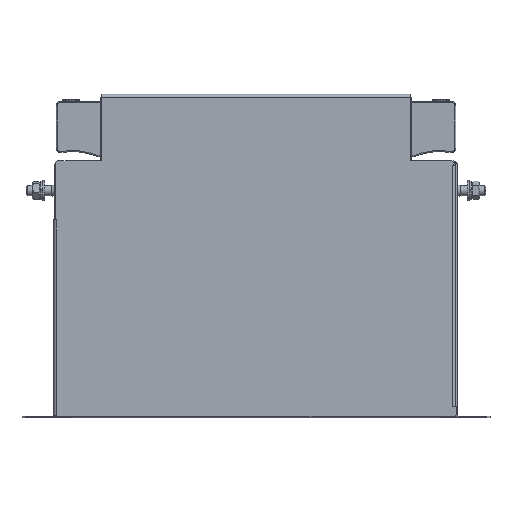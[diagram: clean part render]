
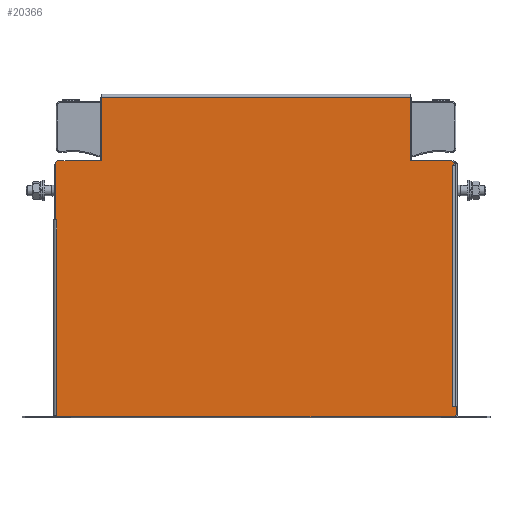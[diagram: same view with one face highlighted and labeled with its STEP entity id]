
A CAD part, top view. The second image highlights one B-rep face of the part: STEP entity #20366.
In plain terms, the highlighted planar face has unit normal (0, 0, 1).
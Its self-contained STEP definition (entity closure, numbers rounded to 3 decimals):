
#1993=LINE('',#33534,#3895);
#1999=LINE('',#33544,#3901);
#2001=LINE('',#33548,#3903);
#2004=LINE('',#33554,#3906);
#2006=LINE('',#33559,#3908);
#2016=LINE('',#33584,#3918);
#2017=LINE('',#33588,#3919);
#2023=LINE('',#33599,#3925);
#2024=LINE('',#33602,#3926);
#2027=LINE('',#33609,#3929);
#2031=LINE('',#33617,#3933);
#2035=LINE('',#33624,#3937);
#2050=LINE('',#33668,#3952);
#2053=LINE('',#33676,#3955);
#2054=LINE('',#33680,#3956);
#2060=LINE('',#33691,#3962);
#2061=LINE('',#33693,#3963);
#2063=LINE('',#33698,#3965);
#2067=LINE('',#33706,#3969);
#2071=LINE('',#33714,#3973);
#2078=LINE('',#33732,#3980);
#2081=LINE('',#33737,#3983);
#2082=LINE('',#33739,#3984);
#2084=LINE('',#33744,#3986);
#2086=LINE('',#33747,#3988);
#2103=LINE('',#33779,#4005);
#2105=LINE('',#33782,#4007);
#3895=VECTOR('',#27486,10.);
#3901=VECTOR('',#27494,10.);
#3903=VECTOR('',#27498,10.);
#3906=VECTOR('',#27503,10.);
#3908=VECTOR('',#27507,10.);
#3918=VECTOR('',#27535,10.);
#3919=VECTOR('',#27538,10.);
#3925=VECTOR('',#27546,10.);
#3926=VECTOR('',#27549,10.);
#3929=VECTOR('',#27554,10.);
#3933=VECTOR('',#27560,10.);
#3937=VECTOR('',#27566,10.);
#3952=VECTOR('',#27615,10.);
#3955=VECTOR('',#27624,10.);
#3956=VECTOR('',#27627,10.);
#3962=VECTOR('',#27635,10.);
#3963=VECTOR('',#27638,10.);
#3965=VECTOR('',#27642,10.);
#3969=VECTOR('',#27648,10.);
#3973=VECTOR('',#27654,10.);
#3980=VECTOR('',#27679,10.);
#3983=VECTOR('',#27684,10.);
#3984=VECTOR('',#27687,10.);
#3986=VECTOR('',#27691,10.);
#3988=VECTOR('',#27695,10.);
#4005=VECTOR('',#27726,10.);
#4007=VECTOR('',#27730,10.);
#4725=PLANE('',#22211);
#7162=FACE_OUTER_BOUND('',#8466,.T.);
#8466=EDGE_LOOP('',(#18842,#18843,#18844,#18845,#18846,#18847,#18848,#18849,
#18850,#18851,#18852,#18853,#18854,#18855,#18856,#18857,#18858,#18859,#18860,
#18861,#18862,#18863,#18864,#18865,#18866,#18867,#18868));
#10783=VERTEX_POINT('',#33531);
#10784=VERTEX_POINT('',#33533);
#10785=VERTEX_POINT('',#33538);
#10787=VERTEX_POINT('',#33542);
#10788=VERTEX_POINT('',#33546);
#10789=VERTEX_POINT('',#33550);
#10790=VERTEX_POINT('',#33552);
#10792=VERTEX_POINT('',#33557);
#10799=VERTEX_POINT('',#33586);
#10800=VERTEX_POINT('',#33587);
#10804=VERTEX_POINT('',#33596);
#10805=VERTEX_POINT('',#33601);
#10807=VERTEX_POINT('',#33607);
#10808=VERTEX_POINT('',#33608);
#10811=VERTEX_POINT('',#33616);
#10813=VERTEX_POINT('',#33622);
#10826=VERTEX_POINT('',#33672);
#10828=VERTEX_POINT('',#33678);
#10829=VERTEX_POINT('',#33679);
#10833=VERTEX_POINT('',#33688);
#10834=VERTEX_POINT('',#33696);
#10835=VERTEX_POINT('',#33697);
#10838=VERTEX_POINT('',#33705);
#10841=VERTEX_POINT('',#33712);
#10844=VERTEX_POINT('',#33734);
#10845=VERTEX_POINT('',#33741);
#10854=VERTEX_POINT('',#33777);
#13406=EDGE_CURVE('',#10783,#10784,#1993,.T.);
#13412=EDGE_CURVE('',#10785,#10787,#1999,.T.);
#13414=EDGE_CURVE('',#10787,#10788,#2001,.T.);
#13417=EDGE_CURVE('',#10789,#10790,#2004,.T.);
#13419=EDGE_CURVE('',#10790,#10792,#2006,.T.);
#13433=EDGE_CURVE('',#10792,#10785,#2016,.T.);
#13434=EDGE_CURVE('',#10799,#10800,#2017,.T.);
#13440=EDGE_CURVE('',#10804,#10799,#2023,.T.);
#13441=EDGE_CURVE('',#10800,#10805,#2024,.T.);
#13444=EDGE_CURVE('',#10807,#10808,#2027,.T.);
#13448=EDGE_CURVE('',#10811,#10807,#2031,.T.);
#13452=EDGE_CURVE('',#10808,#10813,#2035,.T.);
#13475=EDGE_CURVE('',#10813,#10804,#2050,.T.);
#13478=EDGE_CURVE('',#10784,#10826,#2053,.T.);
#13479=EDGE_CURVE('',#10828,#10829,#2054,.T.);
#13485=EDGE_CURVE('',#10833,#10828,#2060,.T.);
#13486=EDGE_CURVE('',#10829,#10826,#2061,.T.);
#13488=EDGE_CURVE('',#10834,#10835,#2063,.T.);
#13492=EDGE_CURVE('',#10838,#10834,#2067,.T.);
#13496=EDGE_CURVE('',#10835,#10841,#2071,.T.);
#13507=EDGE_CURVE('',#10841,#10833,#2078,.T.);
#13510=EDGE_CURVE('',#10838,#10844,#2081,.T.);
#13511=EDGE_CURVE('',#10844,#10788,#2082,.T.);
#13513=EDGE_CURVE('',#10845,#10805,#2084,.T.);
#13515=EDGE_CURVE('',#10789,#10845,#2086,.T.);
#13532=EDGE_CURVE('',#10811,#10854,#2103,.T.);
#13534=EDGE_CURVE('',#10854,#10783,#2105,.T.);
#18842=ORIENTED_EDGE('',*,*,#13534,.F.);
#18843=ORIENTED_EDGE('',*,*,#13532,.F.);
#18844=ORIENTED_EDGE('',*,*,#13448,.T.);
#18845=ORIENTED_EDGE('',*,*,#13444,.T.);
#18846=ORIENTED_EDGE('',*,*,#13452,.T.);
#18847=ORIENTED_EDGE('',*,*,#13475,.T.);
#18848=ORIENTED_EDGE('',*,*,#13440,.T.);
#18849=ORIENTED_EDGE('',*,*,#13434,.T.);
#18850=ORIENTED_EDGE('',*,*,#13441,.T.);
#18851=ORIENTED_EDGE('',*,*,#13513,.F.);
#18852=ORIENTED_EDGE('',*,*,#13515,.F.);
#18853=ORIENTED_EDGE('',*,*,#13417,.T.);
#18854=ORIENTED_EDGE('',*,*,#13419,.T.);
#18855=ORIENTED_EDGE('',*,*,#13433,.T.);
#18856=ORIENTED_EDGE('',*,*,#13412,.T.);
#18857=ORIENTED_EDGE('',*,*,#13414,.T.);
#18858=ORIENTED_EDGE('',*,*,#13511,.F.);
#18859=ORIENTED_EDGE('',*,*,#13510,.F.);
#18860=ORIENTED_EDGE('',*,*,#13492,.T.);
#18861=ORIENTED_EDGE('',*,*,#13488,.T.);
#18862=ORIENTED_EDGE('',*,*,#13496,.T.);
#18863=ORIENTED_EDGE('',*,*,#13507,.T.);
#18864=ORIENTED_EDGE('',*,*,#13485,.T.);
#18865=ORIENTED_EDGE('',*,*,#13479,.T.);
#18866=ORIENTED_EDGE('',*,*,#13486,.T.);
#18867=ORIENTED_EDGE('',*,*,#13478,.F.);
#18868=ORIENTED_EDGE('',*,*,#13406,.F.);
#20366=ADVANCED_FACE('',(#7162),#4725,.T.);
#22211=AXIS2_PLACEMENT_3D('',#33785,#27735,#27736);
#27486=DIRECTION('',(-1.,0.,0.));
#27494=DIRECTION('',(0.,-1.,0.));
#27498=DIRECTION('',(-1.,0.,0.));
#27503=DIRECTION('',(-1.,0.,0.));
#27507=DIRECTION('',(0.,1.,0.));
#27535=DIRECTION('',(-1.,0.,0.));
#27538=DIRECTION('',(0.,1.,0.));
#27546=DIRECTION('',(-1.,0.,0.));
#27549=DIRECTION('',(1.,0.,0.));
#27554=DIRECTION('',(0.,1.,0.));
#27560=DIRECTION('',(-1.,0.,0.));
#27566=DIRECTION('',(1.,0.,0.));
#27615=DIRECTION('',(0.,1.,0.));
#27624=DIRECTION('',(0.,1.,0.));
#27627=DIRECTION('',(0.,-1.,0.));
#27635=DIRECTION('',(1.,0.,0.));
#27638=DIRECTION('',(-1.,0.,0.));
#27642=DIRECTION('',(0.,-1.,0.));
#27648=DIRECTION('',(1.,0.,0.));
#27654=DIRECTION('',(-1.,0.,0.));
#27679=DIRECTION('',(0.,-1.,0.));
#27684=DIRECTION('',(0.,1.,0.));
#27687=DIRECTION('',(0.707,0.707,0.));
#27691=DIRECTION('',(0.,-1.,0.));
#27695=DIRECTION('',(0.707,-0.707,0.));
#27726=DIRECTION('',(0.,-1.,0.));
#27730=DIRECTION('',(-0.707,-0.707,0.));
#27735=DIRECTION('center_axis',(0.,0.,
1.));
#27736=DIRECTION('ref_axis',(1.,0.,0.));
#33531=CARTESIAN_POINT('',(97.45,0.5,27.45));
#33533=CARTESIAN_POINT('',(-98.05,0.5,27.45));
#33534=CARTESIAN_POINT('',(-97.25,0.5,27.45));
#33538=CARTESIAN_POINT('',(-75.95,157.5,27.45));
#33542=CARTESIAN_POINT('',(-75.95,126.2,27.45));
#33544=CARTESIAN_POINT('',(-75.95,119.375,27.45));
#33546=CARTESIAN_POINT('',(-97.35,126.2,27.45));
#33548=CARTESIAN_POINT('',(-37.975,126.2,27.45));
#33550=CARTESIAN_POINT('',(96.25,126.2,27.45));
#33552=CARTESIAN_POINT('',(75.95,126.2,27.45));
#33554=CARTESIAN_POINT('',(48.625,126.2,27.45));
#33557=CARTESIAN_POINT('',(75.95,157.5,27.45));
#33559=CARTESIAN_POINT('',(75.95,102.975,27.45));
#33584=CARTESIAN_POINT('',(37.975,157.5,27.45));
#33586=CARTESIAN_POINT('',(96.44,124.2,27.45));
#33587=CARTESIAN_POINT('',(96.44,124.21,27.45));
#33588=CARTESIAN_POINT('',(96.44,101.975,27.45));
#33596=CARTESIAN_POINT('',(96.45,124.2,27.45));
#33599=CARTESIAN_POINT('',(48.625,124.2,27.45));
#33601=CARTESIAN_POINT('',(97.25,124.21,27.45));
#33602=CARTESIAN_POINT('',(48.22,124.21,27.45));
#33607=CARTESIAN_POINT('',(96.44,5.49,27.45));
#33608=CARTESIAN_POINT('',(96.44,5.5,27.45));
#33609=CARTESIAN_POINT('',(96.44,42.62,27.45));
#33616=CARTESIAN_POINT('',(98.45,5.49,27.45));
#33617=CARTESIAN_POINT('',(48.625,5.49,27.45));
#33622=CARTESIAN_POINT('',(96.45,5.5,27.45));
#33624=CARTESIAN_POINT('',(48.22,5.5,27.45));
#33668=CARTESIAN_POINT('',(96.45,42.625,27.45));
#33672=CARTESIAN_POINT('',(-98.05,0.99,27.45));
#33676=CARTESIAN_POINT('',(-98.05,40.125,27.45));
#33678=CARTESIAN_POINT('',(-97.94,1.,27.45));
#33679=CARTESIAN_POINT('',(-97.94,0.99,27.45));
#33680=CARTESIAN_POINT('',(-97.94,40.375,27.45));
#33688=CARTESIAN_POINT('',(-97.95,1.,27.45));
#33691=CARTESIAN_POINT('',(-49.375,1.,27.45));
#33693=CARTESIAN_POINT('',(-48.97,0.99,27.45));
#33696=CARTESIAN_POINT('',(-97.94,97.21,27.45));
#33697=CARTESIAN_POINT('',(-97.94,97.2,27.45));
#33698=CARTESIAN_POINT('',(-97.94,88.48,27.45));
#33705=CARTESIAN_POINT('',(-98.35,97.21,27.45));
#33706=CARTESIAN_POINT('',(-49.375,97.21,27.45));
#33712=CARTESIAN_POINT('',(-97.95,97.2,27.45));
#33714=CARTESIAN_POINT('',(-48.97,97.2,27.45));
#33732=CARTESIAN_POINT('',(-97.95,88.475,27.45));
#33734=CARTESIAN_POINT('',(-98.35,125.2,27.45));
#33737=CARTESIAN_POINT('',(-98.35,40.125,27.45));
#33739=CARTESIAN_POINT('',(-84.875,138.675,27.45));
#33741=CARTESIAN_POINT('',(97.25,125.2,27.45));
#33744=CARTESIAN_POINT('',(97.25,0.5,27.45));
#33747=CARTESIAN_POINT('',(84.05,138.4,27.45));
#33777=CARTESIAN_POINT('',(98.45,1.5,27.45));
#33779=CARTESIAN_POINT('',(98.45,5.49,27.45));
#33782=CARTESIAN_POINT('',(93.15,-3.8,27.45));
#33785=CARTESIAN_POINT('Origin',(0.,79.75,
27.45));
